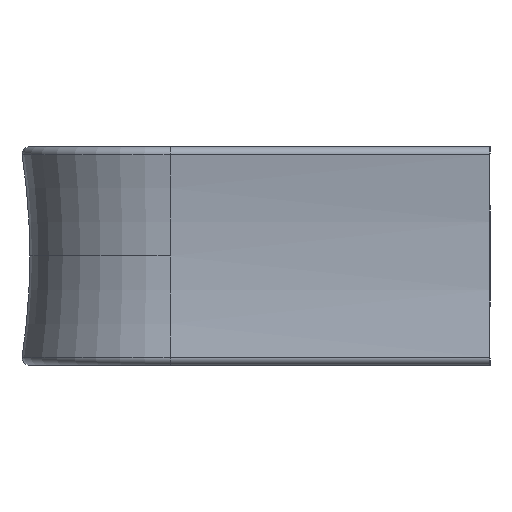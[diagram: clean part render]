
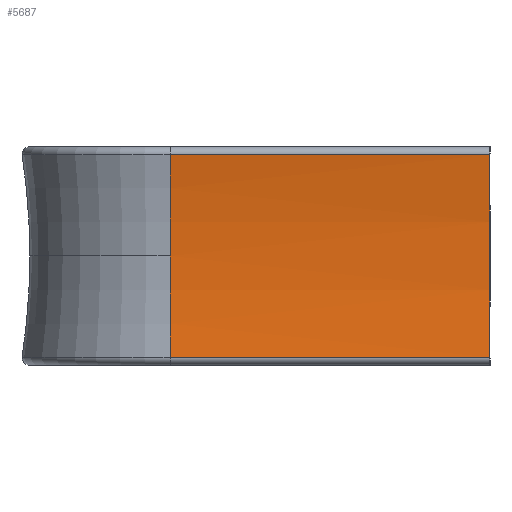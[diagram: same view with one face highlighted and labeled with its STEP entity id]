
A CAD part, left-side view. The second image highlights one B-rep face of the part: STEP entity #5687.
In plain terms, the highlighted cylindrical face has radius 42.5 mm (diameter 85 mm), a partial arc.
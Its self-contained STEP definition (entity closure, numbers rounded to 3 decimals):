
#9 = EDGE_CURVE ( 'NONE', #4279, #2933, #439, .T. ) ;
#139 = VERTEX_POINT ( 'NONE', #566 ) ;
#439 = LINE ( 'NONE', #2017, #5441 ) ;
#490 = EDGE_CURVE ( 'NONE', #4995, #2933, #2944, .T. ) ;
#503 = ORIENTED_EDGE ( 'NONE', *, *, #9, .F. ) ;
#566 = CARTESIAN_POINT ( 'NONE',  ( -7.5, 20.5, 0. ) ) ;
#950 = DIRECTION ( 'NONE',  ( 0., -1., 0. ) ) ;
#1272 = CARTESIAN_POINT ( 'NONE',  ( -50., 0., 0. ) ) ;
#1337 = DIRECTION ( 'NONE',  ( 0., -1., 0. ) ) ;
#1363 = DIRECTION ( 'NONE',  ( 0., 0., -1. ) ) ;
#1370 = LINE ( 'NONE', #1531, #3763 ) ;
#1531 = CARTESIAN_POINT ( 'NONE',  ( -8., 20.5, -6.5 ) ) ;
#1566 = ORIENTED_EDGE ( 'NONE', *, *, #6188, .F. ) ;
#1925 = DIRECTION ( 'NONE',  ( 0., -1., 0. ) ) ;
#2017 = CARTESIAN_POINT ( 'NONE',  ( -8., 20.5, 6.5 ) ) ;
#2065 = DIRECTION ( 'NONE',  ( 0., -1., 0. ) ) ;
#2262 = CIRCLE ( 'NONE', #3004, 42.5 ) ;
#2421 = CARTESIAN_POINT ( 'NONE',  ( -8., 0., 6.5 ) ) ;
#2457 = DIRECTION ( 'NONE',  ( 0., 0., -1. ) ) ;
#2494 = AXIS2_PLACEMENT_3D ( 'NONE', #5307, #950, #2457 ) ;
#2571 = ORIENTED_EDGE ( 'NONE', *, *, #5858, .T. ) ;
#2693 = VERTEX_POINT ( 'NONE', #6068 ) ;
#2806 = DIRECTION ( 'NONE',  ( 0., -1., 0. ) ) ;
#2933 = VERTEX_POINT ( 'NONE', #2421 ) ;
#2944 = CIRCLE ( 'NONE', #3200, 42.5 ) ;
#3004 = AXIS2_PLACEMENT_3D ( 'NONE', #5667, #2806, #6138 ) ;
#3200 = AXIS2_PLACEMENT_3D ( 'NONE', #1272, #1337, #1363 ) ;
#3463 = DIRECTION ( 'NONE',  ( 0., -1., 0. ) ) ;
#3763 = VECTOR ( 'NONE', #3463, 1000. ) ;
#4279 = VERTEX_POINT ( 'NONE', #5933 ) ;
#4393 = EDGE_LOOP ( 'NONE', ( #5512, #503, #1566, #4762, #2571 ) ) ;
#4596 = AXIS2_PLACEMENT_3D ( 'NONE', #4794, #1925, #5272 ) ;
#4762 = ORIENTED_EDGE ( 'NONE', *, *, #6245, .F. ) ;
#4794 = CARTESIAN_POINT ( 'NONE',  ( -50., 20.5, 0. ) ) ;
#4995 = VERTEX_POINT ( 'NONE', #5310 ) ;
#5272 = DIRECTION ( 'NONE',  ( 0., 0., -1. ) ) ;
#5307 = CARTESIAN_POINT ( 'NONE',  ( -50., 20.5, 0. ) ) ;
#5310 = CARTESIAN_POINT ( 'NONE',  ( -8., 0., -6.5 ) ) ;
#5441 = VECTOR ( 'NONE', #2065, 1000. ) ;
#5485 = CYLINDRICAL_SURFACE ( 'NONE', #2494, 42.5 ) ;
#5512 = ORIENTED_EDGE ( 'NONE', *, *, #490, .T. ) ;
#5618 = CIRCLE ( 'NONE', #4596, 42.5 ) ;
#5630 = FACE_OUTER_BOUND ( 'NONE', #4393, .T. ) ;
#5667 = CARTESIAN_POINT ( 'NONE',  ( -50., 20.5, 0. ) ) ;
#5687 = ADVANCED_FACE ( 'NONE', ( #5630 ), #5485, .F. ) ;
#5858 = EDGE_CURVE ( 'NONE', #2693, #4995, #1370, .T. ) ;
#5933 = CARTESIAN_POINT ( 'NONE',  ( -8., 20.5, 6.5 ) ) ;
#6068 = CARTESIAN_POINT ( 'NONE',  ( -8., 20.5, -6.5 ) ) ;
#6138 = DIRECTION ( 'NONE',  ( 0., 0., -1. ) ) ;
#6188 = EDGE_CURVE ( 'NONE', #139, #4279, #2262, .T. ) ;
#6245 = EDGE_CURVE ( 'NONE', #2693, #139, #5618, .T. ) ;
